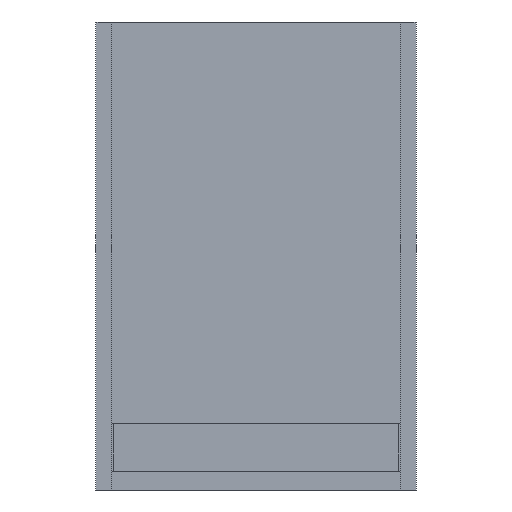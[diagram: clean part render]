
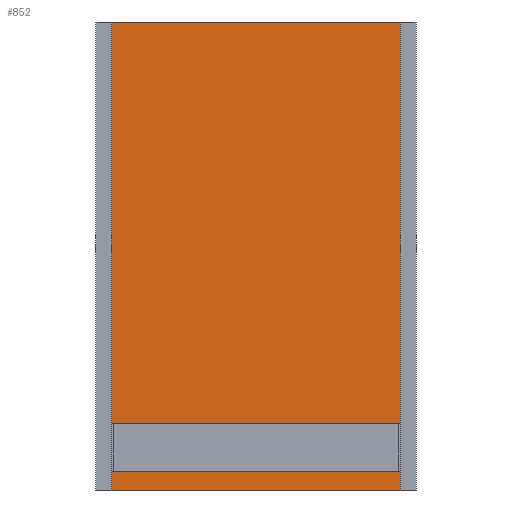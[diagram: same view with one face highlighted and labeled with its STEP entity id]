
A CAD part, front view. The second image highlights one B-rep face of the part: STEP entity #852.
In plain terms, the highlighted planar face has unit normal (0, -1, 0).
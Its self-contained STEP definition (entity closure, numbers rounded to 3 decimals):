
#379 = AXIS2_PLACEMENT_3D ( 'NONE', #1566, #1565, #1564 ) ;
#710 = EDGE_CURVE ( 'NONE', #2423, #2436, #1192, .T. ) ;
#712 = EDGE_CURVE ( 'NONE', #2436, #2413, #1188, .T. ) ;
#713 = EDGE_CURVE ( 'NONE', #2447, #2413, #1186, .T. ) ;
#714 = EDGE_CURVE ( 'NONE', #2423, #2447, #1184, .T. ) ;
#852 = ADVANCED_FACE ( 'NONE', ( #1031 ), #1567, .F. ) ;
#1031 = FACE_OUTER_BOUND ( 'NONE', #1915, .T. ) ;
#1183 = VECTOR ( 'NONE', #2674, 1000. ) ;
#1184 = LINE ( 'NONE', #2668, #1183 ) ;
#1185 = VECTOR ( 'NONE', #2672, 1000. ) ;
#1186 = LINE ( 'NONE', #2685, #1185 ) ;
#1187 = VECTOR ( 'NONE', #2670, 1000. ) ;
#1188 = LINE ( 'NONE', #2669, #1187 ) ;
#1191 = VECTOR ( 'NONE', #2667, 1000. ) ;
#1192 = LINE ( 'NONE', #2892, #1191 ) ;
#1495 = CARTESIAN_POINT ( 'NONE',  ( 168.5, -57.525, 500. ) ) ;
#1506 = CARTESIAN_POINT ( 'NONE',  ( -168.5, -57.525, 0. ) ) ;
#1519 = CARTESIAN_POINT ( 'NONE',  ( -168.5, -57.525, 500. ) ) ;
#1529 = CARTESIAN_POINT ( 'NONE',  ( 168.5, -57.525, 0. ) ) ;
#1564 = DIRECTION ( 'NONE',  ( -1., 0., 0. ) ) ;
#1565 = DIRECTION ( 'NONE',  ( 0., 1., 0. ) ) ;
#1566 = CARTESIAN_POINT ( 'NONE',  ( 168.5, -57.525, 500. ) ) ;
#1567 = PLANE ( 'NONE',  #379 ) ;
#1915 = EDGE_LOOP ( 'NONE', ( #2155, #2156, #2157, #2158 ) ) ;
#2155 = ORIENTED_EDGE ( 'NONE', *, *, #712, .T. ) ;
#2156 = ORIENTED_EDGE ( 'NONE', *, *, #713, .F. ) ;
#2157 = ORIENTED_EDGE ( 'NONE', *, *, #714, .F. ) ;
#2158 = ORIENTED_EDGE ( 'NONE', *, *, #710, .T. ) ;
#2413 = VERTEX_POINT ( 'NONE', #1529 ) ;
#2423 = VERTEX_POINT ( 'NONE', #1519 ) ;
#2436 = VERTEX_POINT ( 'NONE', #1506 ) ;
#2447 = VERTEX_POINT ( 'NONE', #1495 ) ;
#2667 = DIRECTION ( 'NONE',  ( 0., 0., -1. ) ) ;
#2668 = CARTESIAN_POINT ( 'NONE',  ( 168.5, -57.525, 500. ) ) ;
#2669 = CARTESIAN_POINT ( 'NONE',  ( 168.5, -57.525, 0. ) ) ;
#2670 = DIRECTION ( 'NONE',  ( 1., 0., 0. ) ) ;
#2672 = DIRECTION ( 'NONE',  ( 0., 0., -1. ) ) ;
#2674 = DIRECTION ( 'NONE',  ( 1., 0., 0. ) ) ;
#2685 = CARTESIAN_POINT ( 'NONE',  ( 168.5, -57.525, 500. ) ) ;
#2892 = CARTESIAN_POINT ( 'NONE',  ( -168.5, -57.525, 500. ) ) ;
